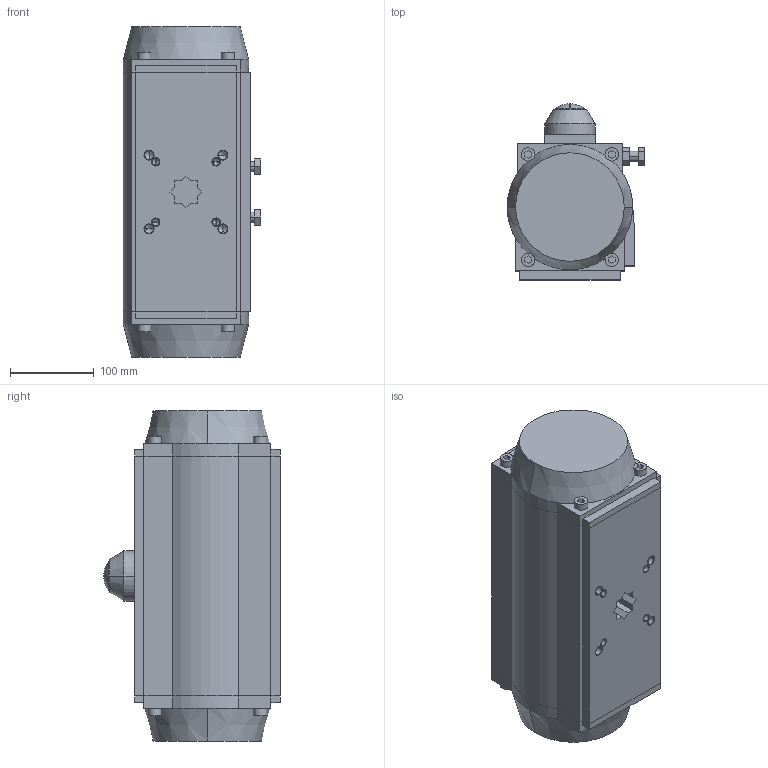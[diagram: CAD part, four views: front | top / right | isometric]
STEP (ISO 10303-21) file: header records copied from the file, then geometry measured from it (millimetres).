
FILE_DESCRIPTION((''),'2;1');
FILE_NAME('SB_PNEVMOPRIVOD_ASM','2024-02-03T',('DIMA'),(''),'PRO/ENGINEER BY PARAMETRIC TECHNOLOGY CORPORATION, 2008020','PRO/ENGINEER BY PARAMETRIC TECHNOLOGY CORPORATION, 2008020','');
FILE_SCHEMA(('CONFIG_CONTROL_DESIGN'));
Length unit declared in the file: millimetre
Products named in the file (7): KORPUS; KOLCO_40_GOST13942; KRISKA_VERX; VINT; KRISKA_LEFT; KRISKA_RIGHT; SB_PNEVMOPRIVOD_ASM
Assembly tree (6 placements, depth 2):
  SB_PNEVMOPRIVOD_ASM
    KORPUS
    KOLCO_40_GOST13942
    KRISKA_VERX
    VINT
    KRISKA_LEFT
    KRISKA_RIGHT
Bounding box: 164.5 x 210.96 x 395 mm (x, y, z)
Volume: 8521950.1 mm3; surface area: 407819.1 mm2
Topology: 6 solids, 32 shells, 444 faces, 1148 edges, 739 vertices
Faces by surface type: plane 241, cylinder 147, cone 54, sphere 2
Entity records: 13514 total; most frequent: CARTESIAN_POINT 2438, DIRECTION 2390, ORIENTED_EDGE 2096, EDGE_CURVE 1102, AXIS2_PLACEMENT_3D 851, VERTEX_POINT 739, VECTOR 688, LINE 688
